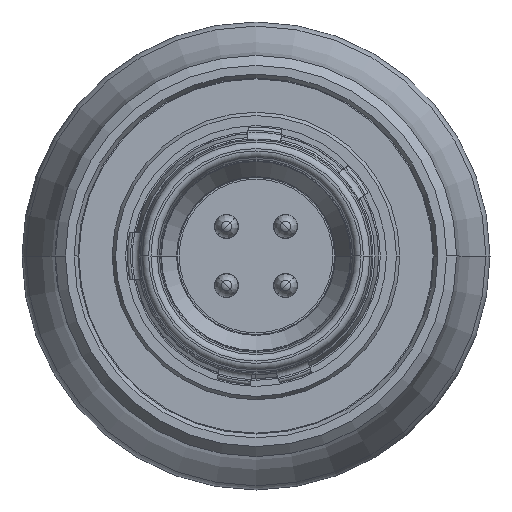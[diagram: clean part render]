
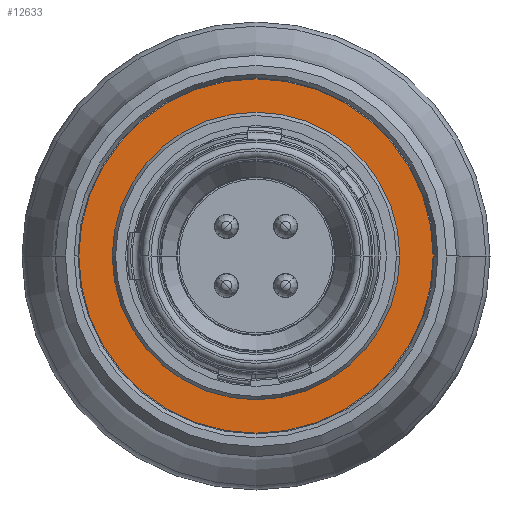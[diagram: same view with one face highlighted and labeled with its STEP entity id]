
A CAD part, left-side view. The second image highlights one B-rep face of the part: STEP entity #12633.
In plain terms, the highlighted planar face has unit normal (-1, 0, 0).
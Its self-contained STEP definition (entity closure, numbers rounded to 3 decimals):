
#1454=CARTESIAN_POINT('',(10.001,0.,0.));
#1455=DIRECTION('',(1.,0.,0.));
#1456=DIRECTION('',(0.,1.,0.));
#1457=AXIS2_PLACEMENT_3D('',#1454,#1455,#1456);
#1459=CARTESIAN_POINT('',(10.001,0.,0.));
#1460=DIRECTION('',(1.,0.,0.));
#1461=DIRECTION('',(0.,-1.,0.));
#1462=AXIS2_PLACEMENT_3D('',#1459,#1460,#1461);
#1464=CARTESIAN_POINT('',(10.001,0.,0.));
#1465=DIRECTION('',(-1.,0.,0.));
#1466=DIRECTION('',(0.,1.,0.));
#1467=AXIS2_PLACEMENT_3D('',#1464,#1465,#1466);
#1469=CARTESIAN_POINT('',(10.001,0.,0.));
#1470=DIRECTION('',(-1.,0.,0.));
#1471=DIRECTION('',(0.,-1.,0.));
#1472=AXIS2_PLACEMENT_3D('',#1469,#1470,#1471);
#8828=CARTESIAN_POINT('',(10.001,4.3,0.));
#8829=VERTEX_POINT('',#8828);
#8830=CARTESIAN_POINT('',(10.001,-4.3,0.));
#8831=VERTEX_POINT('',#8830);
#8834=CARTESIAN_POINT('',(10.001,5.3,0.));
#8835=CARTESIAN_POINT('',(10.001,-5.3,0.));
#8836=VERTEX_POINT('',#8834);
#8837=VERTEX_POINT('',#8835);
#12618=CARTESIAN_POINT('',(10.001,0.,0.));
#12619=DIRECTION('',(1.,0.,0.));
#12620=DIRECTION('',(0.,-1.,0.));
#12621=AXIS2_PLACEMENT_3D('',#12618,#12619,#12620);
#12622=PLANE('',#12621);
#12624=ORIENTED_EDGE('',*,*,#12623,.T.);
#12626=ORIENTED_EDGE('',*,*,#12625,.T.);
#12627=EDGE_LOOP('',(#12624,#12626));
#12628=FACE_OUTER_BOUND('',#12627,.F.);
#12629=ORIENTED_EDGE('',*,*,#12584,.T.);
#12630=ORIENTED_EDGE('',*,*,#12560,.T.);
#12631=EDGE_LOOP('',(#12629,#12630));
#12632=FACE_BOUND('',#12631,.F.);
#1458=CIRCLE('',#1457,5.3);
#1463=CIRCLE('',#1462,5.3);
#1468=CIRCLE('',#1467,4.3);
#1473=CIRCLE('',#1472,4.3);
#12560=EDGE_CURVE('',#8831,#8829,#1473,.T.);
#12584=EDGE_CURVE('',#8829,#8831,#1468,.T.);
#12623=EDGE_CURVE('',#8836,#8837,#1458,.T.);
#12625=EDGE_CURVE('',#8837,#8836,#1463,.T.);
#12633=ADVANCED_FACE('',(#12628,#12632),#12622,.F.);
